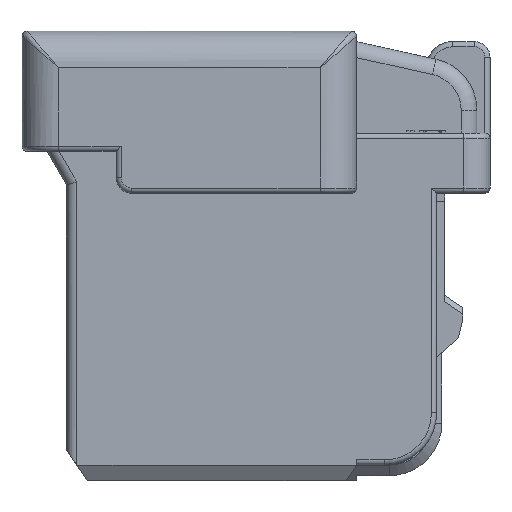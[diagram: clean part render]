
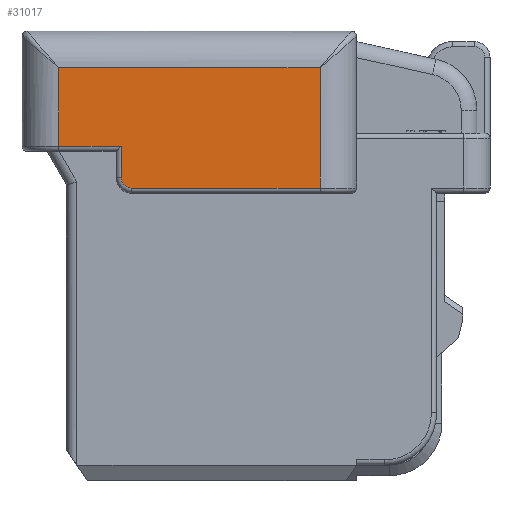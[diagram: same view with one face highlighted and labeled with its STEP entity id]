
A CAD part, left-side view. The second image highlights one B-rep face of the part: STEP entity #31017.
In plain terms, the highlighted planar face has unit normal (-1, 0, 0).
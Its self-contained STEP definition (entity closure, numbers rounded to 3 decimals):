
#2159 = DIRECTION ( 'NONE',  ( 1., 0., 0. ) ) ;
#3089 = DIRECTION ( 'NONE',  ( 0., 1., 0. ) ) ;
#3476 = CARTESIAN_POINT ( 'NONE',  ( -8.15, 2.575, -2.2 ) ) ;
#4377 = VECTOR ( 'NONE', #7222, 1000. ) ;
#4421 = LINE ( 'NONE', #24438, #26750 ) ;
#4751 = ORIENTED_EDGE ( 'NONE', *, *, #25257, .T. ) ;
#4961 = AXIS2_PLACEMENT_3D ( 'NONE', #32427, #2159, #9422 ) ;
#6600 = EDGE_CURVE ( 'NONE', #11359, #30774, #9539, .T. ) ;
#7222 = DIRECTION ( 'NONE',  ( 0., 1., 0. ) ) ;
#8585 = ORIENTED_EDGE ( 'NONE', *, *, #15326, .T. ) ;
#8729 = DIRECTION ( 'NONE',  ( 0., 0., -1. ) ) ;
#8809 = CARTESIAN_POINT ( 'NONE',  ( -8.15, -1.225, -3. ) ) ;
#9374 = CARTESIAN_POINT ( 'NONE',  ( -8.15, -1.225, -0.7 ) ) ;
#9422 = DIRECTION ( 'NONE',  ( 0., 1., 0. ) ) ;
#9539 = LINE ( 'NONE', #10458, #4377 ) ;
#10458 = CARTESIAN_POINT ( 'NONE',  ( -8.15, 2.575, -2.2 ) ) ;
#10899 = VERTEX_POINT ( 'NONE', #22271 ) ;
#11203 = CARTESIAN_POINT ( 'NONE',  ( -8.15, 2.575, -2.2 ) ) ;
#11359 = VERTEX_POINT ( 'NONE', #3476 ) ;
#12949 = VERTEX_POINT ( 'NONE', #32379 ) ;
#13056 = VECTOR ( 'NONE', #14919, 1000. ) ;
#13387 = VECTOR ( 'NONE', #19659, 1000. ) ;
#13546 = VECTOR ( 'NONE', #8729, 1000. ) ;
#13583 = ORIENTED_EDGE ( 'NONE', *, *, #25308, .T. ) ;
#13664 = CIRCLE ( 'NONE', #24742, 0.2 ) ;
#13860 = LINE ( 'NONE', #11203, #13546 ) ;
#14919 = DIRECTION ( 'NONE',  ( 0., -1., 0. ) ) ;
#15326 = EDGE_CURVE ( 'NONE', #12949, #10899, #17992, .T. ) ;
#16299 = ORIENTED_EDGE ( 'NONE', *, *, #20017, .T. ) ;
#16587 = LINE ( 'NONE', #16741, #13056 ) ;
#16741 = CARTESIAN_POINT ( 'NONE',  ( -8.15, 2.375, -3. ) ) ;
#17217 = PLANE ( 'NONE',  #4961 ) ;
#17548 = FACE_OUTER_BOUND ( 'NONE', #24229, .T. ) ;
#17992 = LINE ( 'NONE', #25757, #26349 ) ;
#18133 = ORIENTED_EDGE ( 'NONE', *, *, #6600, .F. ) ;
#18719 = CARTESIAN_POINT ( 'NONE',  ( -8.15, 2.575, -2.8 ) ) ;
#19347 = DIRECTION ( 'NONE',  ( -1., 0., 0. ) ) ;
#19659 = DIRECTION ( 'NONE',  ( 0., 0., -1. ) ) ;
#20017 = EDGE_CURVE ( 'NONE', #24969, #27398, #13664, .T. ) ;
#21676 = ORIENTED_EDGE ( 'NONE', *, *, #30253, .F. ) ;
#21814 = LINE ( 'NONE', #9374, #13387 ) ;
#22271 = CARTESIAN_POINT ( 'NONE',  ( -8.15, 3.775, -0.7 ) ) ;
#22892 = DIRECTION ( 'NONE',  ( 0., 0., -1. ) ) ;
#24118 = CARTESIAN_POINT ( 'NONE',  ( -8.15, 2.375, -3. ) ) ;
#24229 = EDGE_LOOP ( 'NONE', ( #18133, #4751, #16299, #28828, #21676, #8585, #13583 ) ) ;
#24438 = CARTESIAN_POINT ( 'NONE',  ( -8.15, 3.775, -0.7 ) ) ;
#24584 = EDGE_CURVE ( 'NONE', #27398, #28167, #16587, .T. ) ;
#24742 = AXIS2_PLACEMENT_3D ( 'NONE', #32219, #19347, #32052 ) ;
#24969 = VERTEX_POINT ( 'NONE', #18719 ) ;
#25257 = EDGE_CURVE ( 'NONE', #11359, #24969, #13860, .T. ) ;
#25308 = EDGE_CURVE ( 'NONE', #10899, #30774, #4421, .T. ) ;
#25757 = CARTESIAN_POINT ( 'NONE',  ( -8.15, -1.225, -0.7 ) ) ;
#26349 = VECTOR ( 'NONE', #3089, 1000. ) ;
#26750 = VECTOR ( 'NONE', #22892, 1000. ) ;
#27398 = VERTEX_POINT ( 'NONE', #24118 ) ;
#28167 = VERTEX_POINT ( 'NONE', #8809 ) ;
#28828 = ORIENTED_EDGE ( 'NONE', *, *, #24584, .T. ) ;
#30253 = EDGE_CURVE ( 'NONE', #12949, #28167, #21814, .T. ) ;
#30774 = VERTEX_POINT ( 'NONE', #32648 ) ;
#31017 = ADVANCED_FACE ( 'NONE', ( #17548 ), #17217, .F. ) ;
#32052 = DIRECTION ( 'NONE',  ( 0., 1., 0. ) ) ;
#32219 = CARTESIAN_POINT ( 'NONE',  ( -8.15, 2.375, -2.8 ) ) ;
#32379 = CARTESIAN_POINT ( 'NONE',  ( -8.15, -1.225, -0.7 ) ) ;
#32427 = CARTESIAN_POINT ( 'NONE',  ( -8.15, 0., 0. ) ) ;
#32648 = CARTESIAN_POINT ( 'NONE',  ( -8.15, 3.775, -2.2 ) ) ;
